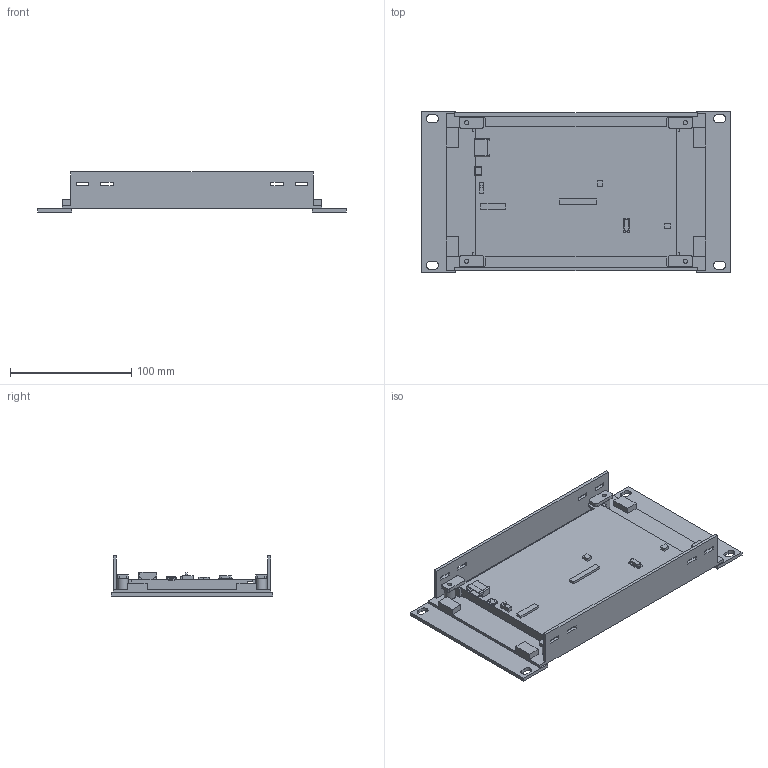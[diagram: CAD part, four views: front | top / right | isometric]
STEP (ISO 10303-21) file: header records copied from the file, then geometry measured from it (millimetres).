
FILE_DESCRIPTION(('Open CASCADE Model'),'2;1');
FILE_NAME('Open CASCADE Shape Model','2026-10-27T02:12:01',('Author'),( 'Open CASCADE'),'Open CASCADE STEP processor 7.9','Open CASCADE 7.9' ,'Unknown');
FILE_SCHEMA(('AUTOMOTIVE_DESIGN { 1 0 10303 214 1 1 1 1 }'));
Length unit declared in the file: millimetre
Products named in the file (9): b2109498-d17d-11f1-8d49-affaa8818fe9; body; screen (Waveshare model); clip0; clip1; clip2; clip3; ear1; ear-1
Assembly tree (8 placements, depth 2):
  b2109498-d17d-11f1-8d49-affaa8818fe9
    body
    screen (Waveshare model)
    clip0
    clip1
    clip2
    clip3
    ear1
    ear-1
Bounding box: 254 x 132.55 x 33 mm (x, y, z)
Volume: 219249.3 mm3; surface area: 115629.5 mm2
Topology: 8 solids, 8 shells, 399 faces, 1076 edges, 708 vertices
Faces by surface type: plane 304, cylinder 91, cone 4
Full cylindrical faces by diameter (mm): 3.4 x8, 4 x8, 9 x4
Entity records: 26846 total; most frequent: CARTESIAN_POINT 5354, DIRECTION 3821, LINE 2536, VECTOR 2536, ORIENTED_EDGE 2152, PCURVE 2152, DEFINITIONAL_REPRESENTATION 2152, EDGE_CURVE 1076
